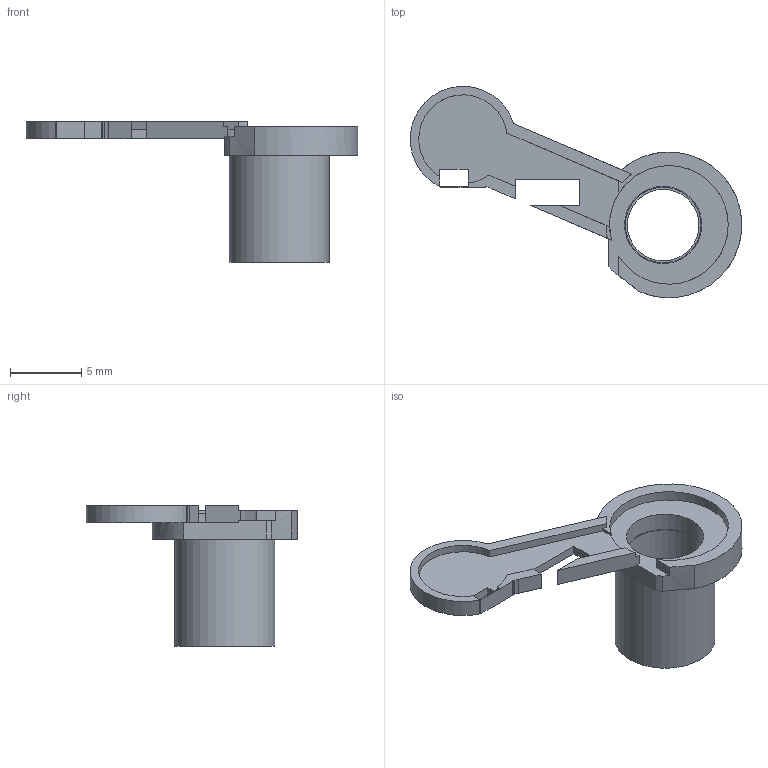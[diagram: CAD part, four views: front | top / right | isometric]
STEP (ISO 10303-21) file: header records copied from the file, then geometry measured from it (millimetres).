
FILE_DESCRIPTION(('Open CASCADE Model'),'2;1');
FILE_NAME('Open CASCADE Shape Model','2026-09-09T11:50:24',('Author'),( 'Open CASCADE'),'Open CASCADE STEP processor 7.7','Open CASCADE 7.7' ,'Unknown');
FILE_SCHEMA(('AUTOMOTIVE_DESIGN { 1 0 10303 214 1 1 1 1 }'));
Length unit declared in the file: millimetre
Products named in the file (1): Open CASCADE STEP translator 7.7 17
Bounding box: 23.18 x 14.78 x 9.85 mm (x, y, z)
Volume: 259.5 mm3; surface area: 733.2 mm2
Topology: 1 solids, 1 shells, 47 faces, 126 edges, 84 vertices
Faces by surface type: plane 31, cylinder 16
Full cylindrical faces by diameter (mm): 5 x1, 5.3 x1, 5.4 x1, 6.2 x1, 7 x1
Entity records: 3097 total; most frequent: CARTESIAN_POINT 617, DIRECTION 443, ORIENTED_EDGE 252, PCURVE 252, DEFINITIONAL_REPRESENTATION 252, LINE 247, VECTOR 247, EDGE_CURVE 126
